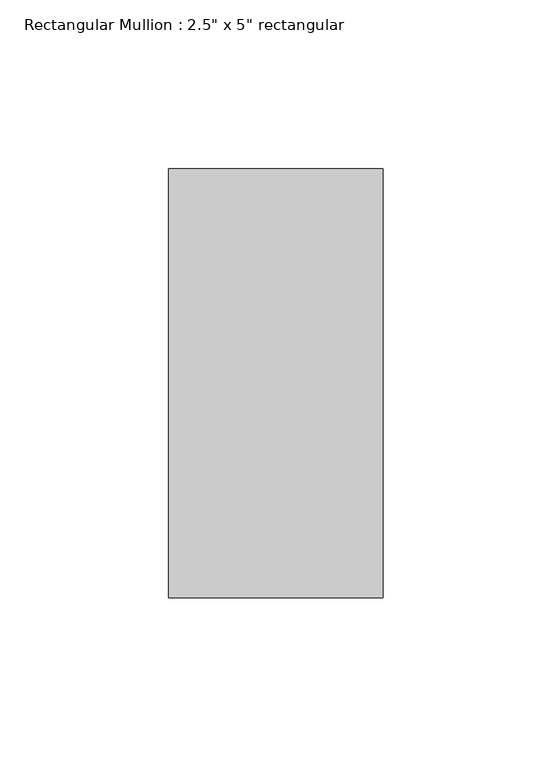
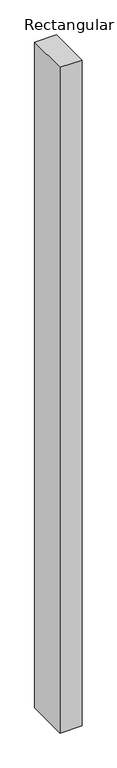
"""IFC4 building model written with IfcOpenShell, lengths in millimetres: member geometry."""

import ifcopenshell
import ifcopenshell.guid

model = None  # the IFC model being written
_history = None  # IfcOwnerHistory: only IFC2X3 demands one
_inside = {}  # id of a spatial element -> (the spatial element, [elements in it])
_under = {}  # id of a project, library or spatial element -> (it, [spatial elements below it])
_declared = {}  # id of a project -> (the project, [libraries it declares])
_typed = {}  # id of a type object -> (the type object, [elements of that type])
_made_of = {}  # id of a material, layer set ... -> (it, [elements and type objects made of it])


def new_model(schema):
    """Start an empty IFC model of exactly this schema.

    Asked for "IFC4X3", IfcOpenShell would pick the latest addendum, in which some entities
    have other attributes; the version numbers below select the first issue.
    IFC2X3 requires an IfcOwnerHistory on every rooted entity: one is made here for all.
    """
    global model, _history
    if schema == "IFC4X3":
        model = ifcopenshell.file(schema_version=(4, 3, 0, 0))
    else:
        model = ifcopenshell.file(schema=schema)
    _inside.clear()
    _under.clear()
    _declared.clear()
    _typed.clear()
    _made_of.clear()
    _history = None
    if model.schema == "IFC2X3":
        org = make("IfcOrganization", Name="unknown")
        user = make(
            "IfcPersonAndOrganization",
            ThePerson=make("IfcPerson", FamilyName="unknown"),
            TheOrganization=org,
        )
        app = make(
            "IfcApplication",
            ApplicationDeveloper=org,
            Version="unknown",
            ApplicationFullName="unknown",
            ApplicationIdentifier="unknown",
        )
        _history = make(
            "IfcOwnerHistory",
            OwningUser=user,
            OwningApplication=app,
            ChangeAction="ADDED",
            CreationDate=0,
        )
    return model


def make(cls, **values):
    """One entity of the class cls with the attributes given. An attribute that is None is left unset."""
    return model.create_entity(
        cls, **{name: value for name, value in values.items() if value is not None}
    )


def rooted(cls, **values):
    """An entity with a GlobalId (a new one), such as an element, a storey or a relation."""
    return make(cls, GlobalId=ifcopenshell.guid.new(), OwnerHistory=_history, **values)


def si_unit(unit_type, name, prefix=None):
    """IfcSIUnit, for example si_unit("LENGTHUNIT", "METRE", prefix="MILLI")."""
    return make("IfcSIUnit", UnitType=unit_type, Prefix=prefix, Name=name)


def assignment(units):
    """IfcUnitAssignment: the units of a project."""
    return None if units is None else make("IfcUnitAssignment", Units=units)


def point(xyz):
    """IfcCartesianPoint."""
    return None if xyz is None else make("IfcCartesianPoint", Coordinates=xyz)


def direction(xyz):
    """IfcDirection."""
    return None if xyz is None else make("IfcDirection", DirectionRatios=xyz)


def frame(location, z_axis=None, x_axis=None):
    """IfcAxis2Placement3D, a coordinate frame: its origin and axes. An axis left out is left unset."""
    return make(
        "IfcAxis2Placement3D",
        Location=point(location),
        Axis=direction(z_axis),
        RefDirection=direction(x_axis),
    )


def origin():
    """The frame at (0, 0, 0) with its axes left unset."""
    return frame((0.0, 0.0, 0.0))


def place(relative_to, where):
    """IfcLocalPlacement: puts the frame where relative to a parent placement (None: the world)."""
    return make(
        "IfcLocalPlacement", PlacementRelTo=relative_to, RelativePlacement=where
    )


def context(
    kind, dimensions, precision=None, world=None, true_north=None, identifier=None
):
    """IfcGeometricRepresentationContext, for example the 3D "Model" context."""
    return make(
        "IfcGeometricRepresentationContext",
        ContextIdentifier=identifier,
        ContextType=kind,
        CoordinateSpaceDimension=dimensions,
        Precision=precision,
        WorldCoordinateSystem=world,
        TrueNorth=true_north,
    )


def project(units=None, contexts=None):
    """IfcProject with its units and contexts."""
    return rooted(
        "IfcProject",
        Name="project",
        RepresentationContexts=contexts,
        UnitsInContext=assignment(units),
    )


def spatial(cls, under=None, at=None, **own):
    """A site, building, storey or space (cls), placed at a placement, below another one or the project."""
    s = rooted(cls, ObjectPlacement=at, **own)
    if under is not None:
        _under.setdefault(under.id(), (under, []))[1].append(s)
    return s


def polyline(points):
    """IfcPolyline through the points."""
    return make("IfcPolyline", Points=[point(p) for p in points])


def outline(outer, holes=None, kind="AREA"):
    """IfcArbitraryClosedProfileDef: a profile drawn as a closed curve; with holes, ...WithVoids."""
    if holes is None:
        return make("IfcArbitraryClosedProfileDef", ProfileType=kind, OuterCurve=outer)
    return make(
        "IfcArbitraryProfileDefWithVoids",
        ProfileType=kind,
        OuterCurve=outer,
        InnerCurves=holes,
    )


def extrude(swept, where, along, depth):
    """IfcExtrudedAreaSolid: the profile swept, set in the frame where, extruded along a direction by depth."""
    return make(
        "IfcExtrudedAreaSolid",
        SweptArea=swept,
        Position=where,
        ExtrudedDirection=direction(along),
        Depth=depth,
    )


def shape(context_of_items, identifier, shape_type, items):
    """IfcShapeRepresentation: the items that make up one representation, for example the "Body"."""
    return make(
        "IfcShapeRepresentation",
        ContextOfItems=context_of_items,
        RepresentationIdentifier=identifier,
        RepresentationType=shape_type,
        Items=items,
    )


def source(mapping_origin, context_of_items, identifier, shape_type, items):
    """IfcRepresentationMap: a shape defined once, which mapped items show again and again."""
    return make(
        "IfcRepresentationMap",
        MappingOrigin=mapping_origin,
        MappedRepresentation=shape(context_of_items, identifier, shape_type, items),
    )


def transform(
    local_origin,
    x_axis=None,
    y_axis=None,
    z_axis=None,
    scale=None,
    scale2=None,
    scale3=None,
    uniform=True,
):
    """IfcCartesianTransformationOperator3D, or its non-uniform kind. x_axis, y_axis, z_axis: its Axis1, 2, 3."""
    if uniform:
        return make(
            "IfcCartesianTransformationOperator3D",
            Axis1=direction(x_axis),
            Axis2=direction(y_axis),
            LocalOrigin=point(local_origin),
            Scale=scale,
            Axis3=direction(z_axis),
        )
    return make(
        "IfcCartesianTransformationOperator3DnonUniform",
        Axis1=direction(x_axis),
        Axis2=direction(y_axis),
        LocalOrigin=point(local_origin),
        Scale=scale,
        Axis3=direction(z_axis),
        Scale2=scale2,
        Scale3=scale3,
    )


def mapped(mapping_source, mapping_target):
    """IfcMappedItem: shows the shape of a source again, moved by a transform."""
    return make(
        "IfcMappedItem", MappingSource=mapping_source, MappingTarget=mapping_target
    )


def made_of(thing, what):
    """Note that an element or type object is made of a material, layer set ...; save() writes the relation."""
    if what is not None:
        _made_of.setdefault(what.id(), (what, []))[1].append(thing)
    return thing


def element(
    cls,
    number,
    at=None,
    inside=None,
    cuts=None,
    type_object=None,
    material=None,
    context=None,
    identifier="Body",
    shape_type=None,
    held_by="IfcProductDefinitionShape",
    body=None,
    shapes=None,
    **own,
):
    """One element of the class cls, such as IfcWall. Its Tag is "e" and its number.

    at: its placement. inside: the storey or other place that contains it. cuts: it is an
    opening in that element (IfcRelVoidsElement). A single representation is given by context,
    identifier, shape_type and body (its items); several are given by shapes. held_by: the class
    of the entity that holds the representations. save() writes the other relations.
    """
    e = rooted(cls, Tag="e%d" % number, ObjectPlacement=at, **own)
    if body is not None:
        shapes = [shape(context, identifier, shape_type, body)]
    if shapes is not None:
        e.Representation = make(held_by, Representations=shapes)
    if inside is not None:
        _inside.setdefault(inside.id(), (inside, []))[1].append(e)
    if cuts is not None:
        rooted(
            "IfcRelVoidsElement", RelatingBuildingElement=cuts, RelatedOpeningElement=e
        )
    if type_object is not None:
        _typed.setdefault(type_object.id(), (type_object, []))[1].append(e)
    return made_of(e, material)


def aggregate(whole, parts):
    """IfcRelAggregates: a whole, such as a stair, and the parts it consists of."""
    return rooted("IfcRelAggregates", RelatingObject=whole, RelatedObjects=parts)


def save(model, path):
    """Write the relations noted so far, then the file.

    IfcRelAggregates (storeys below a building ...), IfcRelContainedInSpatialStructure (elements
    in a storey), IfcRelDefinesByType, IfcRelAssociatesMaterial and IfcRelDeclares: one each for
    every whole, place, type object, material and project.
    """
    for whole, parts in _under.values():
        aggregate(whole, parts)
    for where, things in _inside.values():
        rooted(
            "IfcRelContainedInSpatialStructure",
            RelatedElements=things,
            RelatingStructure=where,
        )
    for kind, things in _typed.values():
        rooted("IfcRelDefinesByType", RelatedObjects=things, RelatingType=kind)
    for what, things in _made_of.values():
        rooted("IfcRelAssociatesMaterial", RelatedObjects=things, RelatingMaterial=what)
    for by, libraries in _declared.values():
        rooted("IfcRelDeclares", RelatingContext=by, RelatedDefinitions=libraries)
    model.write(path)


def member_0a82c195(model_context):
    return source(origin(), model_context, "Body", "SweptSolid", [
        extrude(outline(polyline([(0.0, 63.5), (0.0, -63.5), (-63.5, -63.5), (-63.5, 63.5), (0.0, 63.5)])), frame((0.0, 0.0, -2032.0), z_axis=(0.0, 0.0, 1.0), x_axis=(1.0, 0.0, 0.0)), (0.0, 0.0, 1.0), 2032.0),
    ])


if __name__ == "__main__":
    model = new_model("IFC4")
    model_context = context("Model", 3, world=origin())
    ifc_project = project(units=[si_unit("LENGTHUNIT", "METRE", prefix="MILLI")], contexts=[model_context])
    site = spatial("IfcSite", under=ifc_project)
    building = spatial("IfcBuilding", under=site)
    placement = place(None, origin())
    member_shape = member_0a82c195(model_context)
    element("IfcMember", 1, ObjectType="Rectangular Mullion : 2.5\" x 5\" rectangular", at=placement, inside=building, context=model_context, shape_type="MappedRepresentation", body=[
        mapped(member_shape, transform((0.0, 0.0, 0.0), x_axis=(1.0, 0.0, 0.0), y_axis=(0.0, 1.0, 0.0), z_axis=(0.0, 0.0, 1.0))),
    ])
    save(model, "model.ifc")
